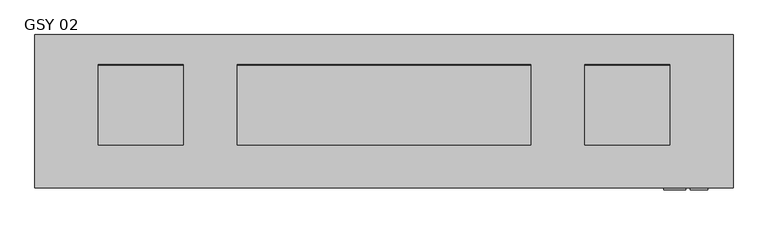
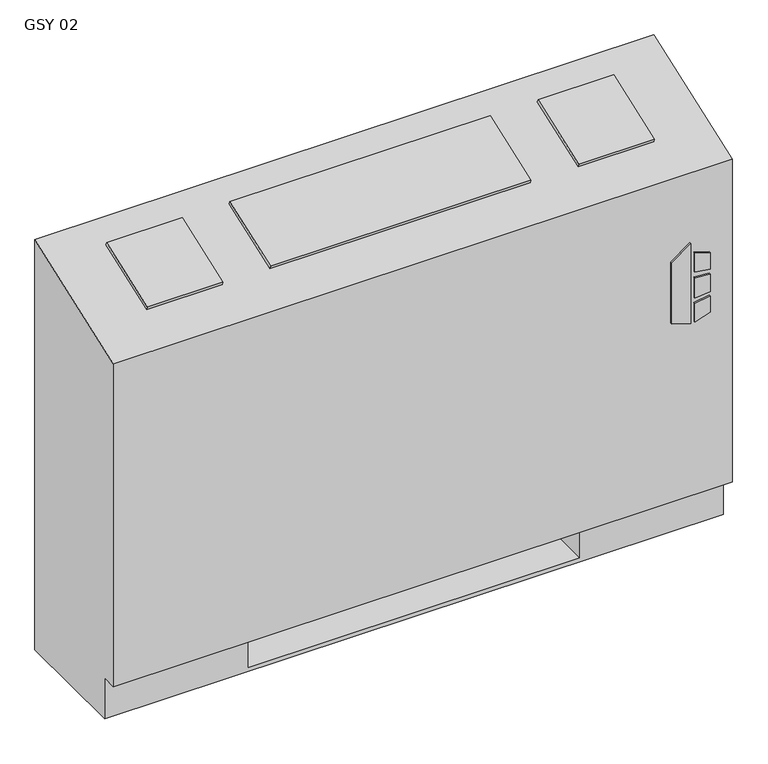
"""IFC4 building model written with IfcOpenShell, lengths in millimetres: proxy geometry, Vertical_Fan_Coil_Unit_-_GSY_-_IEC_-_2-Pipe_TS-FR_RH_2022 : GSY 02."""

from ifc_helpers import new_model, si_unit, point, frame, frame_2d, origin, place, context, project, spatial, polyline, circle_curve, trimmed, segment, composite_curve, outline, extrude, source, transform, mapped, element, save
from ifc_brep_helpers import plane_surface, revolved_surface, advanced_brep


def gsy_02_22f8a827(model_context):
    return source(origin(), model_context, "Body", "SolidModel", [
        extrude(outline(polyline([(391.6086829, 569.9868862), (381.6606126, 602.1602728), (523.831537, 602.1602728), (500.8095309, 569.9868862), (391.6086829, 569.9868862)])), frame((0.0, 12.7, 0.0), z_axis=(0.0, 1.0, 0.0), x_axis=(0.0, 0.0, 1.0)), (0.0, 0.0, 1.0), 3.175),
        extrude(outline(polyline([(470.6079683, 608.9186058), (467.4055757, 635.0), (496.6344168, 635.0), (504.6988318, 608.9186058), (470.6079683, 608.9186058)])), frame((0.0, 12.7, 0.0), z_axis=(0.0, 1.0, 0.0), x_axis=(0.0, 0.0, 1.0)), (0.0, 0.0, 1.0), 3.175),
        extrude(outline(polyline([(418.7444414, 635.0), (415.0789404, 608.9186058), (381.6606126, 608.9186058), (390.2948498, 635.0), (418.7444414, 635.0)])), frame((0.0, 12.7, 0.0), z_axis=(0.0, 1.0, 0.0), x_axis=(0.0, 0.0, 1.0)), (0.0, 0.0, 1.0), 3.175),
        extrude(outline(polyline([(458.0596028, 635.0), (460.3414292, 608.9186058), (424.4038806, 608.9186058), (427.1451456, 635.0), (458.0596028, 635.0)])), frame((0.0, 12.7, 0.0), z_axis=(0.0, 1.0, 0.0), x_axis=(0.0, 0.0, 1.0)), (0.0, 0.0, 1.0), 3.175),
        extrude(outline(polyline([(0.0, -126.2347031), (0.0, 0.0), (127.0, 0.0), (127.0, -126.2347031), (0.0, -126.2347031)])), frame((-274.193, 200.4217127, 714.3418685), z_axis=(0.0, -0.33964446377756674, 0.9405538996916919), x_axis=(1.0, 0.0, 0.0)), (0.0, 0.0, 1.0), 6.35),
        extrude(outline(polyline([(0.0, -126.2347031), (0.0, 0.0), (438.15, 0.0), (438.15, -126.2347031), (0.0, -126.2347031)])), frame((371.475, 81.6911704, 671.4669504), z_axis=(0.0, -0.3396444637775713, 0.9405538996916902), x_axis=(-1.0, 0.0, 0.0)), (0.0, 0.0, 1.0), 6.35),
        extrude(outline(polyline([(0.0, -126.2347031), (0.0, 0.0), (127.0, 0.0), (127.0, -126.2347031), (0.0, -126.2347031)])), frame((578.993, 81.6911704, 671.4669504), z_axis=(0.0, -0.3396444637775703, 0.9405538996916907), x_axis=(-1.0, 0.0, 0.0)), (0.0, 0.0, 1.0), 6.35),
        extrude(outline(polyline([(-247.65, 81.534), (-247.65, 223.266), (-127.0, 223.266), (-127.0, 81.534), (-247.65, 81.534)])), frame((0.0, 0.0, 327.025), z_axis=(0.0, 0.0, 1.0), x_axis=(1.0, 0.0, 0.0)), (0.0, 0.0, 1.0), 260.35),
        extrude(outline(composite_curve([segment(trimmed(circle_curve(frame_2d((80.645, 397.002)), 7.9375), [point((80.645, 404.9395))], [point((80.645, 389.0645))], False, "CARTESIAN"), True, "CONTINUOUS"), segment(trimmed(circle_curve(frame_2d((80.645, 397.002)), 7.9375), [point((80.645, 389.0645))], [point((80.645, 404.9395))], False, "CARTESIAN"), True, "CONTINUOUS")], self_intersect=False)), frame((431.8, 0.0, 0.0), z_axis=(1.0, 0.0, 0.0), x_axis=(0.0, 1.0, 0.0)), (0.0, 0.0, 1.0), 50.8),
        extrude(outline(composite_curve([segment(trimmed(circle_curve(frame_2d((156.8958, 535.8892)), 7.9375), [point((156.8958, 543.8267))], [point((156.8958, 527.9517))], False, "CARTESIAN"), True, "CONTINUOUS"), segment(trimmed(circle_curve(frame_2d((156.8958, 535.8892)), 7.9375), [point((156.8958, 527.9517))], [point((156.8958, 543.8267))], False, "CARTESIAN"), True, "CONTINUOUS")], self_intersect=False)), frame((431.8, 0.0, 0.0), z_axis=(1.0, 0.0, 0.0), x_axis=(0.0, 1.0, 0.0)), (0.0, 0.0, 1.0), 50.8),
        advanced_brep(
        [(-368.3, 244.475, 0.0), (673.1, 244.475, 0.0), (673.1, 41.275, 0.0), (-368.3, 41.275, 0.0), (-368.3, 244.475, 730.25), (673.1, 244.475, 730.25), (431.8, 244.475, 73.025), (660.4, 244.475, 73.025), (660.4, 244.475, 654.05), (431.8, 244.475, 654.05), (431.8, 244.475, 414.8650565), (460.375, 244.475, 414.8650565), (460.375, 244.475, 385.2349435), (431.8, 244.475, 385.2349435), (431.8, 244.475, 287.3375), (460.375, 244.475, 287.3375), (460.375, 244.475, 258.7625), (431.8, 244.475, 258.7625), (431.8, 244.475, 141.2875), (460.375, 244.475, 141.2875), (460.375, 244.475, 112.7125), (431.8, 244.475, 112.7125), (-127.0, 244.475, 654.05), (-355.6, 244.475, 654.05), (-355.6, 244.475, 73.025), (-127.0, 244.475, 73.025), (-127.0, 244.475, 112.7125), (-155.575, 244.475, 112.7125), (-155.575, 244.475, 141.2875), (-127.0, 244.475, 141.2875), (-127.0, 244.475, 258.7625), (-155.575, 244.475, 258.7625), (-155.575, 244.475, 287.3375), (-127.0, 244.475, 287.3375), (-127.0, 244.475, 385.2349435), (-155.575, 244.475, 385.2349435), (-155.575, 244.475, 414.8650565), (-127.0, 244.475, 414.8650565), (450.0626, 244.475, 127.0), (438.9374, 244.475, 127.0), (450.0626, 244.475, 400.05), (438.9374, 244.475, 400.05), (450.0626, 244.475, 273.05), (438.9374, 244.475, 273.05), (-134.1374, 244.475, 127.0), (-145.2626, 244.475, 127.0), (-134.1374, 244.475, 273.05), (-145.2626, 244.475, 273.05), (-134.1374, 244.475, 400.05), (-145.2626, 244.475, 400.05), (-368.3, 41.275, 73.025), (-368.3, 15.875, 73.025), (-368.3, 15.875, 647.7), (673.1, 15.875, 73.025), (673.1, 15.875, 647.7), (673.1, 41.275, 73.025), (-127.0, 41.275, 73.025), (-127.0, 225.425, 73.025), (431.8, 225.425, 73.025), (431.8, 41.275, 73.025), (431.8, 41.275, 6.35), (-127.0, 41.275, 6.35), (431.8, 41.275, 654.05), (660.4, 41.275, 654.05), (660.4, 41.275, 73.025), (431.8, 41.275, 73.025), (-127.0, 41.275, 654.05), (-127.0, 41.275, 73.025), (-355.6, 41.275, 73.025), (-355.6, 41.275, 654.05), (431.8, 225.425, 73.025), (431.8, 238.125, 112.7125), (431.8, 238.125, 141.2875), (431.8, 238.125, 258.7625), (431.8, 238.125, 287.3375), (431.8, 238.125, 385.2349435), (431.8, 238.125, 414.8650565), (-127.0, 225.425, 73.025), (-127.0, 238.125, 414.8650565), (-127.0, 238.125, 385.2349435), (-127.0, 238.125, 287.3375), (-127.0, 238.125, 258.7625), (-127.0, 238.125, 141.2875), (-127.0, 238.125, 112.7125), (-127.0, 225.425, 6.35), (431.8, 225.425, 6.35), (460.375, 238.125, 112.7125), (460.375, 238.125, 141.2875), (438.9374, 238.125, 127.0), (450.0626, 238.125, 127.0), (460.375, 238.125, 258.7625), (460.375, 238.125, 287.3375), (438.9374, 238.125, 273.05), (450.0626, 238.125, 273.05), (460.375, 238.125, 385.2349435), (460.375, 238.125, 414.8650565), (438.9374, 238.125, 400.05), (450.0626, 238.125, 400.05), (-155.575, 238.125, 141.2875), (-155.575, 238.125, 112.7125), (-145.2626, 238.125, 127.0), (-134.1374, 238.125, 127.0), (-155.575, 238.125, 287.3375), (-155.575, 238.125, 258.7625), (-145.2626, 238.125, 273.05), (-134.1374, 238.125, 273.05), (-155.575, 238.125, 414.8650565), (-155.575, 238.125, 385.2349435), (-145.2626, 238.125, 400.05), (-134.1374, 238.125, 400.05)],
        [
            (0, 1),
            (1, 2),
            (2, 3),
            (3, 0),
            (0, 4),
            (4, 5),
            (5, 1),
            (6, 7),
            (7, 8),
            (8, 9),
            (9, 10),
            (10, 11),
            (11, 12),
            (12, 13),
            (13, 14),
            (14, 15),
            (15, 16),
            (16, 17),
            (17, 18),
            (18, 19),
            (19, 20),
            (20, 21),
            (21, 6),
            (22, 23),
            (23, 24),
            (24, 25),
            (25, 26),
            (26, 27),
            (27, 28),
            (28, 29),
            (29, 30),
            (30, 31),
            (31, 32),
            (32, 33),
            (33, 34),
            (34, 35),
            (35, 36),
            (36, 37),
            (37, 22),
            (38, 39, circle_curve(frame((444.5, 244.475, 127.0), z_axis=(0.0, -1.0, 0.0), x_axis=(-1.0, 0.0, 0.0)), 5.5626)),
            (39, 38, circle_curve(frame((444.5, 244.475, 127.0), z_axis=(0.0, -1.0, 0.0), x_axis=(-1.0, 0.0, 0.0)), 5.5626)),
            (40, 41, circle_curve(frame((444.5, 244.475, 400.05), z_axis=(0.0, -1.0, 0.0), x_axis=(-1.0, 0.0, 0.0)), 5.5626)),
            (41, 40, circle_curve(frame((444.5, 244.475, 400.05), z_axis=(0.0, -1.0, 0.0), x_axis=(-1.0, 0.0, 0.0)), 5.5626)),
            (42, 43, circle_curve(frame((444.5, 244.475, 273.05), z_axis=(0.0, -1.0, 0.0), x_axis=(-1.0, 0.0, 0.0)), 5.5626)),
            (43, 42, circle_curve(frame((444.5, 244.475, 273.05), z_axis=(0.0, -1.0, 0.0), x_axis=(-1.0, 0.0, 0.0)), 5.5626)),
            (44, 45, circle_curve(frame((-139.7, 244.475, 127.0), z_axis=(0.0, -1.0, 0.0), x_axis=(-1.0, 0.0, 0.0)), 5.5626)),
            (45, 44, circle_curve(frame((-139.7, 244.475, 127.0), z_axis=(0.0, -1.0, 0.0), x_axis=(-1.0, 0.0, 0.0)), 5.5626)),
            (46, 47, circle_curve(frame((-139.7, 244.475, 273.05), z_axis=(0.0, -1.0, 0.0), x_axis=(-1.0, 0.0, 0.0)), 5.5626)),
            (47, 46, circle_curve(frame((-139.7, 244.475, 273.05), z_axis=(0.0, -1.0, 0.0), x_axis=(-1.0, 0.0, 0.0)), 5.5626)),
            (48, 49, circle_curve(frame((-139.7, 244.475, 400.05), z_axis=(0.0, -1.0, 0.0), x_axis=(-1.0, 0.0, 0.0)), 5.5626)),
            (49, 48, circle_curve(frame((-139.7, 244.475, 400.05), z_axis=(0.0, -1.0, 0.0), x_axis=(-1.0, 0.0, 0.0)), 5.5626)),
            (3, 50),
            (50, 51),
            (51, 52),
            (52, 4),
            (51, 53),
            (53, 54),
            (54, 52),
            (5, 54),
            (53, 55),
            (55, 2),
            (50, 56),
            (56, 57),
            (57, 58),
            (58, 59),
            (59, 55),
            (59, 60),
            (60, 61),
            (61, 56),
            (62, 63),
            (63, 64),
            (64, 65),
            (65, 62),
            (66, 67),
            (67, 68),
            (68, 69),
            (69, 66),
            (65, 70),
            (70, 6),
            (21, 71),
            (71, 72),
            (72, 18),
            (17, 73),
            (73, 74),
            (74, 14),
            (13, 75),
            (75, 76),
            (76, 10),
            (9, 62),
            (64, 7),
            (63, 8),
            (69, 23),
            (22, 66),
            (68, 24),
            (67, 77),
            (77, 25),
            (37, 78),
            (78, 79),
            (79, 34),
            (33, 80),
            (80, 81),
            (81, 30),
            (29, 82),
            (82, 83),
            (83, 26),
            (57, 84),
            (84, 85),
            (85, 58),
            (85, 60),
            (84, 61),
            (71, 86),
            (86, 87),
            (87, 72),
            (88, 89, circle_curve(frame((444.5, 238.125, 127.0), z_axis=(0.0, 1.0, 0.0), x_axis=(-1.0, 0.0, 0.0)), 5.5626)),
            (89, 88, circle_curve(frame((444.5, 238.125, 127.0), z_axis=(0.0, 1.0, 0.0), x_axis=(-1.0, 0.0, 0.0)), 5.5626)),
            (73, 90),
            (90, 91),
            (91, 74),
            (92, 93, circle_curve(frame((444.5, 238.125, 273.05), z_axis=(0.0, 1.0, 0.0), x_axis=(-1.0, 0.0, 0.0)), 5.5626)),
            (93, 92, circle_curve(frame((444.5, 238.125, 273.05), z_axis=(0.0, 1.0, 0.0), x_axis=(-1.0, 0.0, 0.0)), 5.5626)),
            (75, 94),
            (94, 95),
            (95, 76),
            (96, 97, circle_curve(frame((444.5, 238.125, 400.05), z_axis=(0.0, 1.0, 0.0), x_axis=(-1.0, 0.0, 0.0)), 5.5626)),
            (97, 96, circle_curve(frame((444.5, 238.125, 400.05), z_axis=(0.0, 1.0, 0.0), x_axis=(-1.0, 0.0, 0.0)), 5.5626)),
            (98, 99),
            (99, 83),
            (82, 98),
            (100, 101, circle_curve(frame((-139.7, 238.125, 127.0), z_axis=(0.0, 1.0, 0.0), x_axis=(-1.0, 0.0, 0.0)), 5.5626)),
            (101, 100, circle_curve(frame((-139.7, 238.125, 127.0), z_axis=(0.0, 1.0, 0.0), x_axis=(-1.0, 0.0, 0.0)), 5.5626)),
            (102, 103),
            (103, 81),
            (80, 102),
            (104, 105, circle_curve(frame((-139.7, 238.125, 273.05), z_axis=(0.0, 1.0, 0.0), x_axis=(-1.0, 0.0, 0.0)), 5.5626)),
            (105, 104, circle_curve(frame((-139.7, 238.125, 273.05), z_axis=(0.0, 1.0, 0.0), x_axis=(-1.0, 0.0, 0.0)), 5.5626)),
            (106, 107),
            (107, 79),
            (78, 106),
            (108, 109, circle_curve(frame((-139.7, 238.125, 400.05), z_axis=(0.0, 1.0, 0.0), x_axis=(-1.0, 0.0, 0.0)), 5.5626)),
            (109, 108, circle_curve(frame((-139.7, 238.125, 400.05), z_axis=(0.0, 1.0, 0.0), x_axis=(-1.0, 0.0, 0.0)), 5.5626)),
            (87, 19),
            (86, 20),
            (91, 15),
            (90, 16),
            (95, 11),
            (94, 12),
            (28, 98),
            (99, 27),
            (32, 102),
            (103, 31),
            (36, 106),
            (107, 35),
            (88, 39),
            (38, 89),
            (96, 41),
            (40, 97),
            (92, 43),
            (42, 93),
            (100, 45),
            (44, 101),
            (104, 47),
            (46, 105),
            (108, 49),
            (48, 109),
        ],
        [
            plane_surface(frame((-368.3, 244.475, 0.0), z_axis=(0.0, 0.0, -1.0), x_axis=(1.0, 0.0, 0.0))),
            plane_surface(frame((673.1, 244.475, 730.25), z_axis=(0.0, 1.0, 0.0), x_axis=(0.0, 0.0, -1.0))),
            plane_surface(frame((-368.3, 244.475, 730.25), z_axis=(-1.0, 0.0, 0.0), x_axis=(0.0, 0.0, -1.0))),
            plane_surface(frame((-368.3, 15.875, 730.25), z_axis=(0.0, -1.0, 0.0), x_axis=(0.0, 0.0, -1.0))),
            plane_surface(frame((673.1, 15.875, 730.25), z_axis=(1.0, 0.0, 0.0), x_axis=(0.0, 0.0, -1.0))),
            plane_surface(frame((-368.3, 15.875, 73.025), z_axis=(0.0, 0.0, -1.0), x_axis=(1.0, 0.0, 0.0))),
            plane_surface(frame((-368.3, 41.275, 73.025), z_axis=(0.0, -1.0, 0.0), x_axis=(1.0, 0.0, 0.0))),
            plane_surface(frame((431.8, 41.275, 654.05), z_axis=(0.0, 1.0, 0.0), x_axis=(0.0, 0.0, -1.0))),
            plane_surface(frame((431.8, 41.275, 654.05), z_axis=(1.0, 0.0, 0.0), x_axis=(0.0, 1.0, 0.0))),
            plane_surface(frame((431.8, 41.275, 73.025), z_axis=(0.0, 0.0, 1.0), x_axis=(0.0, 1.0, 0.0))),
            plane_surface(frame((660.4, 41.275, 73.025), z_axis=(-1.0, 0.0, 0.0), x_axis=(0.0, 1.0, 0.0))),
            plane_surface(frame((660.4, 41.275, 654.05), z_axis=(0.0, 0.0, -1.0), x_axis=(0.0, 1.0, 0.0))),
            plane_surface(frame((-127.0, 41.275, 654.05), z_axis=(0.0, 0.0, -1.0), x_axis=(0.0, 1.0, 0.0))),
            plane_surface(frame((-355.6, 41.275, 654.05), z_axis=(1.0, 0.0, 0.0), x_axis=(0.0, 1.0, 0.0))),
            plane_surface(frame((-355.6, 41.275, 73.025), z_axis=(0.0, 0.0, 1.0), x_axis=(0.0, 1.0, 0.0))),
            plane_surface(frame((-127.0, 41.275, 73.025), z_axis=(-1.0, 0.0, 0.0), x_axis=(0.0, 1.0, 0.0))),
            plane_surface(frame((431.8, 225.425, 73.025), z_axis=(0.0, -1.0, 0.0), x_axis=(0.0, 0.0, -1.0))),
            plane_surface(frame((431.8, 225.425, 73.025), z_axis=(-1.0, 0.0, 0.0), x_axis=(0.0, -1.0, 0.0))),
            plane_surface(frame((431.8, 225.425, 6.35), z_axis=(0.0, 0.0, 1.0), x_axis=(0.0, -1.0, 0.0))),
            plane_surface(frame((-127.0, 225.425, 6.35), z_axis=(1.0, 0.0, 0.0), x_axis=(0.0, -1.0, 0.0))),
            plane_surface(frame((460.375, 238.125, 141.2875), z_axis=(0.0, -1.0, 0.0), x_axis=(-1.0, 0.0, 0.0))),
            plane_surface(frame((431.8, 244.475, 141.2875), z_axis=(0.0, 0.0, 1.0), x_axis=(0.0, -1.0, 0.0))),
            plane_surface(frame((460.375, 244.475, 141.2875), z_axis=(1.0, 0.0, 0.0), x_axis=(0.0, -1.0, 0.0))),
            plane_surface(frame((460.375, 244.475, 112.7125), z_axis=(0.0, 0.0, -1.0), x_axis=(0.0, -1.0, 0.0))),
            plane_surface(frame((431.8, 244.475, 287.3375), z_axis=(0.0, 0.0, 1.0), x_axis=(0.0, -1.0, 0.0))),
            plane_surface(frame((460.375, 244.475, 287.3375), z_axis=(1.0, 0.0, 0.0), x_axis=(0.0, -1.0, 0.0))),
            plane_surface(frame((460.375, 244.475, 258.7625), z_axis=(0.0, 0.0, -1.0), x_axis=(0.0, -1.0, 0.0))),
            plane_surface(frame((431.8, 244.475, 414.8650565), z_axis=(0.0, 0.0, 1.0), x_axis=(0.0, -1.0, 0.0))),
            plane_surface(frame((460.375, 244.475, 414.8650565), z_axis=(1.0, 0.0, 0.0), x_axis=(0.0, -1.0, 0.0))),
            plane_surface(frame((460.375, 244.475, 385.2349435), z_axis=(0.0, 0.0, -1.0), x_axis=(0.0, -1.0, 0.0))),
            plane_surface(frame((-155.575, 244.475, 141.2875), z_axis=(0.0, 0.0, 1.0), x_axis=(0.0, -1.0, 0.0))),
            plane_surface(frame((-127.0, 244.475, 112.7125), z_axis=(0.0, 0.0, -1.0), x_axis=(0.0, -1.0, 0.0))),
            plane_surface(frame((-155.575, 244.475, 112.7125), z_axis=(-1.0, 0.0, 0.0), x_axis=(0.0, -1.0, 0.0))),
            plane_surface(frame((-155.575, 244.475, 287.3375), z_axis=(0.0, 0.0, 1.0), x_axis=(0.0, -1.0, 0.0))),
            plane_surface(frame((-127.0, 244.475, 258.7625), z_axis=(0.0, 0.0, -1.0), x_axis=(0.0, -1.0, 0.0))),
            plane_surface(frame((-155.575, 244.475, 258.7625), z_axis=(-1.0, 0.0, 0.0), x_axis=(0.0, -1.0, 0.0))),
            plane_surface(frame((-155.575, 244.475, 414.8650565), z_axis=(0.0, 0.0, 1.0), x_axis=(0.0, -1.0, 0.0))),
            plane_surface(frame((-127.0, 244.475, 385.2349435), z_axis=(0.0, 0.0, -1.0), x_axis=(0.0, -1.0, 0.0))),
            plane_surface(frame((-155.575, 244.475, 385.2349435), z_axis=(-1.0, 0.0, 0.0), x_axis=(0.0, -1.0, 0.0))),
            revolved_surface(polyline([(438.9374, 238.125, 127.0), (438.9374, 244.475, 127.0)]), (444.5, 244.475, 127.0), (0.0, -1.0, 0.0)),
            revolved_surface(polyline([(438.9374, 238.125, 400.05), (438.9374, 244.475, 400.05)]), (444.5, 244.475, 400.05), (0.0, -1.0, 0.0)),
            revolved_surface(polyline([(438.9374, 238.125, 273.05), (438.9374, 244.475, 273.05)]), (444.5, 244.475, 273.05), (0.0, -1.0, 0.0)),
            revolved_surface(polyline([(-145.2626, 238.125, 127.0), (-145.2626, 244.475, 127.0)]), (-139.7, 244.475, 127.0), (0.0, -1.0, 0.0)),
            revolved_surface(polyline([(-145.2626, 238.125, 273.05), (-145.2626, 244.475, 273.05)]), (-139.7, 244.475, 273.05), (0.0, -1.0, 0.0)),
            revolved_surface(polyline([(-145.2626, 238.125, 400.05), (-145.2626, 244.475, 400.05)]), (-139.7, 244.475, 400.05), (0.0, -1.0, 0.0)),
            plane_surface(frame((-368.3, 244.475, 730.25), z_axis=(0.0, -0.33964446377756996, 0.9405538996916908), x_axis=(1.0, 0.0, 0.0))),
        ],
        [
            (0, [[1, 2, 3, 4]]),
            (1, [[-1, 5, 6, 7], [8, 9, 10, 11, 12, 13, 14, 15, 16, 17, 18, 19, 20, 21, 22, 23], [24, 25, 26, 27, 28, 29, 30, 31, 32, 33, 34, 35, 36, 37, 38, 39], [40, 41], [42, 43], [44, 45], [46, 47], [48, 49], [50, 51]]),
            (2, [[-5, -4, 52, 53, 54, 55]]),
            (3, [[56, 57, 58, -54]]),
            (4, [[-7, 59, -57, 60, 61, -2]]),
            (5, [[-53, 62, 63, 64, 65, 66, -60, -56]]),
            (6, [[-3, -61, -66, 67, 68, 69, -62, -52]]),
            (7, [[70, 71, 72, 73]]),
            (7, [[74, 75, 76, 77]]),
            (8, [[-73, 78, 79, -23, 80, 81, 82, -19, 83, 84, 85, -15, 86, 87, 88, -11, 89]]),
            (9, [[-72, 90, -8, -79, -78]]),
            (10, [[-71, 91, -9, -90]]),
            (11, [[-70, -89, -10, -91]]),
            (12, [[-77, 92, -24, 93]]),
            (13, [[-76, 94, -25, -92]]),
            (14, [[-75, 95, 96, -26, -94]]),
            (15, [[-74, -93, -39, 97, 98, 99, -35, 100, 101, 102, -31, 103, 104, 105, -27, -96, -95]]),
            (16, [[-64, 106, 107, 108]]),
            (17, [[-108, 109, -67, -65]]),
            (18, [[-107, 110, -68, -109]]),
            (19, [[-106, -63, -69, -110]]),
            (20, [[111, 112, 113, -81], [114, 115]]),
            (20, [[116, 117, 118, -84], [119, 120]]),
            (20, [[121, 122, 123, -87], [124, 125]]),
            (20, [[126, 127, -104, 128], [129, 130]]),
            (20, [[131, 132, -101, 133], [134, 135]]),
            (20, [[136, 137, -98, 138], [139, 140]]),
            (21, [[-113, 141, -20, -82]]),
            (22, [[-112, 142, -21, -141]]),
            (23, [[-111, -80, -22, -142]]),
            (24, [[-118, 143, -16, -85]]),
            (25, [[-117, 144, -17, -143]]),
            (26, [[-116, -83, -18, -144]]),
            (27, [[-123, 145, -12, -88]]),
            (28, [[-122, 146, -13, -145]]),
            (29, [[-121, -86, -14, -146]]),
            (30, [[-128, -103, -30, 147]]),
            (31, [[-127, 148, -28, -105]]),
            (32, [[-126, -147, -29, -148]]),
            (33, [[-133, -100, -34, 149]]),
            (34, [[-132, 150, -32, -102]]),
            (35, [[-131, -149, -33, -150]]),
            (36, [[-138, -97, -38, 151]]),
            (37, [[-137, 152, -36, -99]]),
            (38, [[-136, -151, -37, -152]]),
            (39, [[153, -40, 154, -114]]),
            (39, [[-153, -115, -154, -41]]),
            (40, [[155, -42, 156, -124]]),
            (40, [[-155, -125, -156, -43]]),
            (41, [[157, -44, 158, -119]]),
            (41, [[-157, -120, -158, -45]]),
            (42, [[159, -46, 160, -129]]),
            (42, [[-159, -130, -160, -47]]),
            (43, [[161, -48, 162, -134]]),
            (43, [[-161, -135, -162, -49]]),
            (44, [[163, -50, 164, -139]]),
            (44, [[-163, -140, -164, -51]]),
            (45, [[-6, -55, -58, -59]]),
        ],
    ),
    ])


if __name__ == "__main__":
    model = new_model("IFC4")
    model_context = context("Model", 3, world=origin())
    ifc_project = project(units=[si_unit("LENGTHUNIT", "METRE", prefix="MILLI")], contexts=[model_context])
    site = spatial("IfcSite", under=ifc_project)
    building = spatial("IfcBuilding", under=site)
    placement = place(None, origin())
    gsy_02_shape = gsy_02_22f8a827(model_context)
    element("IfcBuildingElementProxy", 1, Name="Vertical_Fan_Coil_Unit_-_GSY_-_IEC_-_2-Pipe_TS-FR_RH_2022 : GSY 02", ObjectType="Vertical_Fan_Coil_Unit_-_GSY_-_IEC_-_2-Pipe_TS-FR_RH_2022 : GSY 02", at=placement, inside=building, context=model_context, shape_type="MappedRepresentation", body=[
        mapped(gsy_02_shape, transform((0.0, 0.0, 0.0), x_axis=(1.0, 0.0, 0.0), y_axis=(0.0, 1.0, 0.0), z_axis=(0.0, 0.0, 1.0))),
    ])
    save(model, "model.ifc")
